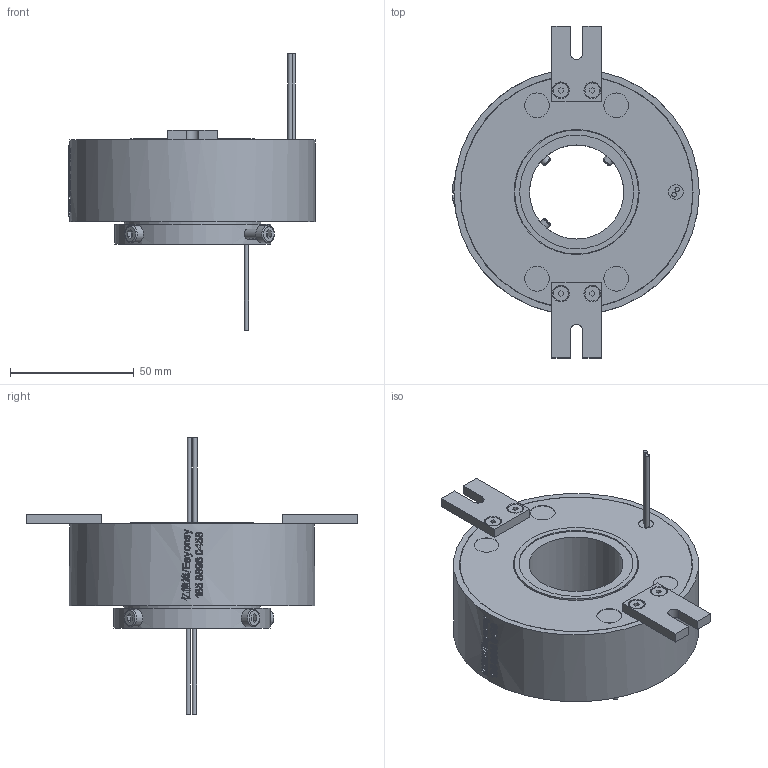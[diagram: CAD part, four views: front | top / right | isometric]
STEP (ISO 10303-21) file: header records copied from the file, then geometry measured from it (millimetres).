
FILE_DESCRIPTION(/* description */ (''),/* implementation_level */ '2;1');
FILE_NAME(/* name */ 'YDS3899-0210-3D模型.stp',/* time_stamp */ '2025-09-03T14:22:10+08:00',/* author */ (''),/* organization */ (''),/* preprocessor_version */ 'ST-DEVELOPER v16.7',/* originating_system */ 'SIEMENS PLM Software NX 12.0',/* authorisation */ '');
FILE_SCHEMA (('AUTOMOTIVE_DESIGN { 1 0 10303 214 3 1 1 1 }'));
Length unit declared in the file: millimetre
Products named in the file (1): Admi1DD8882Fzlww
Bounding box: 99.5 x 134 x 111.6 mm (x, y, z)
Volume: 239138.5 mm3; surface area: 36431.1 mm2
Topology: 1 solids, 2 shells, 910 faces, 2434 edges, 1619 vertices
Faces by surface type: extrusion 452, plane 349, cylinder 64, bspline 33, cone 8, torus 4
Full cylindrical faces by diameter (mm): 1.8 x4, 3.4 x1, 4 x7, 6 x5, 7 x4, 10 x4, 38 x1, 46 x1, 50 x2, 50.5 x2, 55 x2, 55.1 x1, 63 x1, 93.9 x2, 94 x2, 99 x1
Entity records: 36630 total; most frequent: CARTESIAN_POINT 17458, ORIENTED_EDGE 4732, EDGE_CURVE 2366, B_SPLINE_CURVE_WITH_KNOTS 2203, DIRECTION 2180, VERTEX_POINT 1603, EDGE_LOOP 1061, ADVANCED_FACE 910
